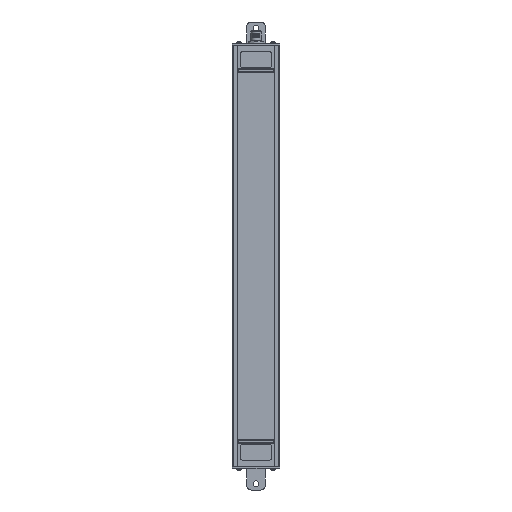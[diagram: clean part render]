
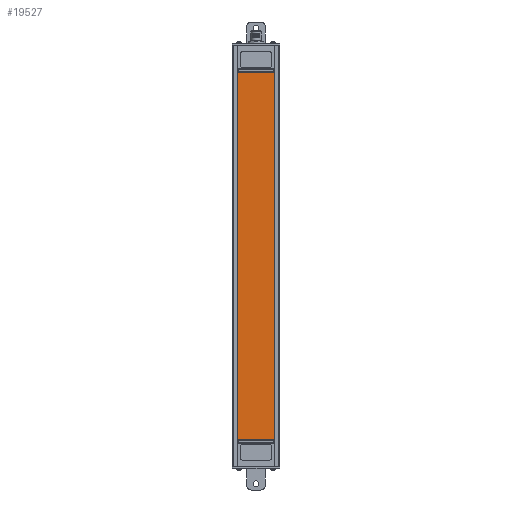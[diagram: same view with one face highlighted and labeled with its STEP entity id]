
A CAD part, front view. The second image highlights one B-rep face of the part: STEP entity #19527.
In plain terms, the highlighted planar face has unit normal (0, -1, 0).
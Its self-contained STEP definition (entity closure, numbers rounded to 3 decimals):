
#1080 = VERTEX_POINT ( 'NONE', #10475 ) ;
#2666 = EDGE_LOOP ( 'NONE', ( #15637, #27571, #26094, #23465 ) ) ;
#4416 = LINE ( 'NONE', #15520, #22533 ) ;
#4546 = DIRECTION ( 'NONE',  ( -1., 0., 0. ) ) ;
#5631 = CARTESIAN_POINT ( 'NONE',  ( -198.5, 0., 21. ) ) ;
#6417 = VERTEX_POINT ( 'NONE', #15585 ) ;
#6536 = AXIS2_PLACEMENT_3D ( 'NONE', #10585, #19440, #21707 ) ;
#6736 = EDGE_CURVE ( 'NONE', #28367, #1080, #4416, .T. ) ;
#7074 = VECTOR ( 'NONE', #13678, 1000. ) ;
#7255 = VECTOR ( 'NONE', #14436, 1000. ) ;
#8644 = PLANE ( 'NONE',  #6536 ) ;
#9632 = CARTESIAN_POINT ( 'NONE',  ( 198.5, 0., 21. ) ) ;
#10475 = CARTESIAN_POINT ( 'NONE',  ( -198.5, 0., -21. ) ) ;
#10519 = EDGE_CURVE ( 'NONE', #23724, #6417, #13838, .T. ) ;
#10585 = CARTESIAN_POINT ( 'NONE',  ( 198.5, 0., -21. ) ) ;
#13678 = DIRECTION ( 'NONE',  ( 1., 0., 0. ) ) ;
#13838 = LINE ( 'NONE', #27797, #7074 ) ;
#14232 = VECTOR ( 'NONE', #21395, 1000. ) ;
#14436 = DIRECTION ( 'NONE',  ( 0., 0., -1. ) ) ;
#14628 = LINE ( 'NONE', #5631, #14232 ) ;
#15520 = CARTESIAN_POINT ( 'NONE',  ( -198.5, 0., -21. ) ) ;
#15544 = EDGE_CURVE ( 'NONE', #6417, #28367, #21335, .T. ) ;
#15585 = CARTESIAN_POINT ( 'NONE',  ( 198.5, 0., 21. ) ) ;
#15637 = ORIENTED_EDGE ( 'NONE', *, *, #15544, .F. ) ;
#17689 = CARTESIAN_POINT ( 'NONE',  ( 198.5, 0., -21. ) ) ;
#17813 = EDGE_CURVE ( 'NONE', #1080, #23724, #14628, .T. ) ;
#19440 = DIRECTION ( 'NONE',  ( 0., -1., 0. ) ) ;
#19527 = ADVANCED_FACE ( 'NONE', ( #22147 ), #8644, .T. ) ;
#21335 = LINE ( 'NONE', #9632, #7255 ) ;
#21395 = DIRECTION ( 'NONE',  ( 0., 0., 1. ) ) ;
#21707 = DIRECTION ( 'NONE',  ( 0., 0., -1. ) ) ;
#22147 = FACE_OUTER_BOUND ( 'NONE', #2666, .T. ) ;
#22533 = VECTOR ( 'NONE', #4546, 1000. ) ;
#23465 = ORIENTED_EDGE ( 'NONE', *, *, #6736, .F. ) ;
#23724 = VERTEX_POINT ( 'NONE', #26118 ) ;
#26094 = ORIENTED_EDGE ( 'NONE', *, *, #17813, .F. ) ;
#26118 = CARTESIAN_POINT ( 'NONE',  ( -198.5, 0., 21. ) ) ;
#27571 = ORIENTED_EDGE ( 'NONE', *, *, #10519, .F. ) ;
#27797 = CARTESIAN_POINT ( 'NONE',  ( -198.5, 0., 21. ) ) ;
#28367 = VERTEX_POINT ( 'NONE', #17689 ) ;
